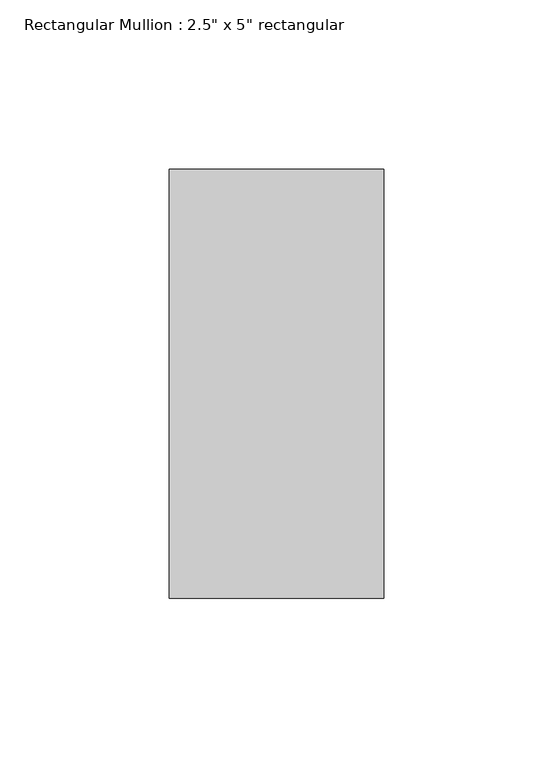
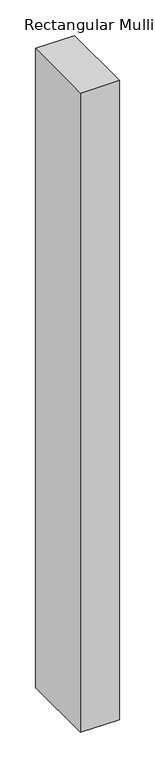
"""IFC4 building model written with IfcOpenShell, lengths in millimetres: member geometry."""

import ifcopenshell
import ifcopenshell.guid

model = None  # the IFC model being written
_history = None  # IfcOwnerHistory: only IFC2X3 demands one
_inside = {}  # id of a spatial element -> (the spatial element, [elements in it])
_under = {}  # id of a project, library or spatial element -> (it, [spatial elements below it])
_declared = {}  # id of a project -> (the project, [libraries it declares])
_typed = {}  # id of a type object -> (the type object, [elements of that type])
_made_of = {}  # id of a material, layer set ... -> (it, [elements and type objects made of it])


def new_model(schema):
    """Start an empty IFC model of exactly this schema.

    Asked for "IFC4X3", IfcOpenShell would pick the latest addendum, in which some entities
    have other attributes; the version numbers below select the first issue.
    IFC2X3 requires an IfcOwnerHistory on every rooted entity: one is made here for all.
    """
    global model, _history
    if schema == "IFC4X3":
        model = ifcopenshell.file(schema_version=(4, 3, 0, 0))
    else:
        model = ifcopenshell.file(schema=schema)
    _inside.clear()
    _under.clear()
    _declared.clear()
    _typed.clear()
    _made_of.clear()
    _history = None
    if model.schema == "IFC2X3":
        org = make("IfcOrganization", Name="unknown")
        user = make(
            "IfcPersonAndOrganization",
            ThePerson=make("IfcPerson", FamilyName="unknown"),
            TheOrganization=org,
        )
        app = make(
            "IfcApplication",
            ApplicationDeveloper=org,
            Version="unknown",
            ApplicationFullName="unknown",
            ApplicationIdentifier="unknown",
        )
        _history = make(
            "IfcOwnerHistory",
            OwningUser=user,
            OwningApplication=app,
            ChangeAction="ADDED",
            CreationDate=0,
        )
    return model


def make(cls, **values):
    """One entity of the class cls with the attributes given. An attribute that is None is left unset."""
    return model.create_entity(
        cls, **{name: value for name, value in values.items() if value is not None}
    )


def rooted(cls, **values):
    """An entity with a GlobalId (a new one), such as an element, a storey or a relation."""
    return make(cls, GlobalId=ifcopenshell.guid.new(), OwnerHistory=_history, **values)


def si_unit(unit_type, name, prefix=None):
    """IfcSIUnit, for example si_unit("LENGTHUNIT", "METRE", prefix="MILLI")."""
    return make("IfcSIUnit", UnitType=unit_type, Prefix=prefix, Name=name)


def assignment(units):
    """IfcUnitAssignment: the units of a project."""
    return None if units is None else make("IfcUnitAssignment", Units=units)


def point(xyz):
    """IfcCartesianPoint."""
    return None if xyz is None else make("IfcCartesianPoint", Coordinates=xyz)


def direction(xyz):
    """IfcDirection."""
    return None if xyz is None else make("IfcDirection", DirectionRatios=xyz)


def frame(location, z_axis=None, x_axis=None):
    """IfcAxis2Placement3D, a coordinate frame: its origin and axes. An axis left out is left unset."""
    return make(
        "IfcAxis2Placement3D",
        Location=point(location),
        Axis=direction(z_axis),
        RefDirection=direction(x_axis),
    )


def origin():
    """The frame at (0, 0, 0) with its axes left unset."""
    return frame((0.0, 0.0, 0.0))


def place(relative_to, where):
    """IfcLocalPlacement: puts the frame where relative to a parent placement (None: the world)."""
    return make(
        "IfcLocalPlacement", PlacementRelTo=relative_to, RelativePlacement=where
    )


def context(
    kind, dimensions, precision=None, world=None, true_north=None, identifier=None
):
    """IfcGeometricRepresentationContext, for example the 3D "Model" context."""
    return make(
        "IfcGeometricRepresentationContext",
        ContextIdentifier=identifier,
        ContextType=kind,
        CoordinateSpaceDimension=dimensions,
        Precision=precision,
        WorldCoordinateSystem=world,
        TrueNorth=true_north,
    )


def project(units=None, contexts=None):
    """IfcProject with its units and contexts."""
    return rooted(
        "IfcProject",
        Name="project",
        RepresentationContexts=contexts,
        UnitsInContext=assignment(units),
    )


def spatial(cls, under=None, at=None, **own):
    """A site, building, storey or space (cls), placed at a placement, below another one or the project."""
    s = rooted(cls, ObjectPlacement=at, **own)
    if under is not None:
        _under.setdefault(under.id(), (under, []))[1].append(s)
    return s


def polyline(points):
    """IfcPolyline through the points."""
    return make("IfcPolyline", Points=[point(p) for p in points])


def outline(outer, holes=None, kind="AREA"):
    """IfcArbitraryClosedProfileDef: a profile drawn as a closed curve; with holes, ...WithVoids."""
    if holes is None:
        return make("IfcArbitraryClosedProfileDef", ProfileType=kind, OuterCurve=outer)
    return make(
        "IfcArbitraryProfileDefWithVoids",
        ProfileType=kind,
        OuterCurve=outer,
        InnerCurves=holes,
    )


def extrude(swept, where, along, depth):
    """IfcExtrudedAreaSolid: the profile swept, set in the frame where, extruded along a direction by depth."""
    return make(
        "IfcExtrudedAreaSolid",
        SweptArea=swept,
        Position=where,
        ExtrudedDirection=direction(along),
        Depth=depth,
    )


def shape(context_of_items, identifier, shape_type, items):
    """IfcShapeRepresentation: the items that make up one representation, for example the "Body"."""
    return make(
        "IfcShapeRepresentation",
        ContextOfItems=context_of_items,
        RepresentationIdentifier=identifier,
        RepresentationType=shape_type,
        Items=items,
    )


def source(mapping_origin, context_of_items, identifier, shape_type, items):
    """IfcRepresentationMap: a shape defined once, which mapped items show again and again."""
    return make(
        "IfcRepresentationMap",
        MappingOrigin=mapping_origin,
        MappedRepresentation=shape(context_of_items, identifier, shape_type, items),
    )


def transform(
    local_origin,
    x_axis=None,
    y_axis=None,
    z_axis=None,
    scale=None,
    scale2=None,
    scale3=None,
    uniform=True,
):
    """IfcCartesianTransformationOperator3D, or its non-uniform kind. x_axis, y_axis, z_axis: its Axis1, 2, 3."""
    if uniform:
        return make(
            "IfcCartesianTransformationOperator3D",
            Axis1=direction(x_axis),
            Axis2=direction(y_axis),
            LocalOrigin=point(local_origin),
            Scale=scale,
            Axis3=direction(z_axis),
        )
    return make(
        "IfcCartesianTransformationOperator3DnonUniform",
        Axis1=direction(x_axis),
        Axis2=direction(y_axis),
        LocalOrigin=point(local_origin),
        Scale=scale,
        Axis3=direction(z_axis),
        Scale2=scale2,
        Scale3=scale3,
    )


def mapped(mapping_source, mapping_target):
    """IfcMappedItem: shows the shape of a source again, moved by a transform."""
    return make(
        "IfcMappedItem", MappingSource=mapping_source, MappingTarget=mapping_target
    )


def made_of(thing, what):
    """Note that an element or type object is made of a material, layer set ...; save() writes the relation."""
    if what is not None:
        _made_of.setdefault(what.id(), (what, []))[1].append(thing)
    return thing


def element(
    cls,
    number,
    at=None,
    inside=None,
    cuts=None,
    type_object=None,
    material=None,
    context=None,
    identifier="Body",
    shape_type=None,
    held_by="IfcProductDefinitionShape",
    body=None,
    shapes=None,
    **own,
):
    """One element of the class cls, such as IfcWall. Its Tag is "e" and its number.

    at: its placement. inside: the storey or other place that contains it. cuts: it is an
    opening in that element (IfcRelVoidsElement). A single representation is given by context,
    identifier, shape_type and body (its items); several are given by shapes. held_by: the class
    of the entity that holds the representations. save() writes the other relations.
    """
    e = rooted(cls, Tag="e%d" % number, ObjectPlacement=at, **own)
    if body is not None:
        shapes = [shape(context, identifier, shape_type, body)]
    if shapes is not None:
        e.Representation = make(held_by, Representations=shapes)
    if inside is not None:
        _inside.setdefault(inside.id(), (inside, []))[1].append(e)
    if cuts is not None:
        rooted(
            "IfcRelVoidsElement", RelatingBuildingElement=cuts, RelatedOpeningElement=e
        )
    if type_object is not None:
        _typed.setdefault(type_object.id(), (type_object, []))[1].append(e)
    return made_of(e, material)


def aggregate(whole, parts):
    """IfcRelAggregates: a whole, such as a stair, and the parts it consists of."""
    return rooted("IfcRelAggregates", RelatingObject=whole, RelatedObjects=parts)


def save(model, path):
    """Write the relations noted so far, then the file.

    IfcRelAggregates (storeys below a building ...), IfcRelContainedInSpatialStructure (elements
    in a storey), IfcRelDefinesByType, IfcRelAssociatesMaterial and IfcRelDeclares: one each for
    every whole, place, type object, material and project.
    """
    for whole, parts in _under.values():
        aggregate(whole, parts)
    for where, things in _inside.values():
        rooted(
            "IfcRelContainedInSpatialStructure",
            RelatedElements=things,
            RelatingStructure=where,
        )
    for kind, things in _typed.values():
        rooted("IfcRelDefinesByType", RelatedObjects=things, RelatingType=kind)
    for what, things in _made_of.values():
        rooted("IfcRelAssociatesMaterial", RelatedObjects=things, RelatingMaterial=what)
    for by, libraries in _declared.values():
        rooted("IfcRelDeclares", RelatingContext=by, RelatedDefinitions=libraries)
    model.write(path)


def member_e80433b6(model_context):
    return source(origin(), model_context, "Body", "SweptSolid", [
        extrude(outline(polyline([(31.75, 63.5), (31.75, -63.5), (-31.75, -63.5), (-31.75, 63.5), (31.75, 63.5)])), frame((0.0, 0.0, -1098.55), z_axis=(0.0, 0.0, 1.0), x_axis=(1.0, 0.0, 0.0)), (0.0, 0.0, 1.0), 1098.55),
    ])


if __name__ == "__main__":
    model = new_model("IFC4")
    model_context = context("Model", 3, world=origin())
    ifc_project = project(units=[si_unit("LENGTHUNIT", "METRE", prefix="MILLI")], contexts=[model_context])
    site = spatial("IfcSite", under=ifc_project)
    building = spatial("IfcBuilding", under=site)
    placement = place(None, origin())
    member_shape = member_e80433b6(model_context)
    element("IfcMember", 1, ObjectType="Rectangular Mullion : 2.5\" x 5\" rectangular", at=placement, inside=building, context=model_context, shape_type="MappedRepresentation", body=[
        mapped(member_shape, transform((0.0, 0.0, 0.0), x_axis=(1.0, 0.0, 0.0), y_axis=(0.0, 1.0, 0.0), z_axis=(0.0, 0.0, 1.0))),
    ])
    save(model, "model.ifc")
